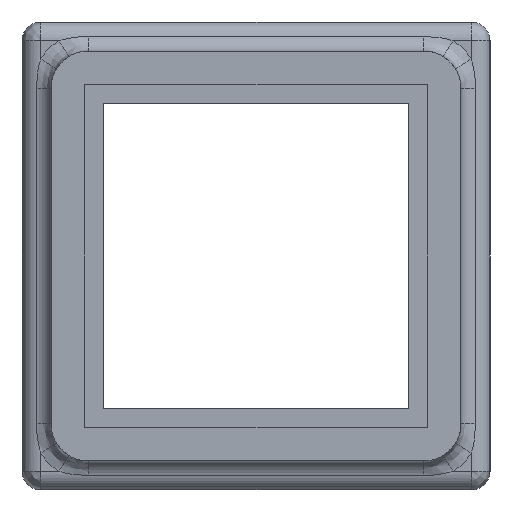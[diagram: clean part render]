
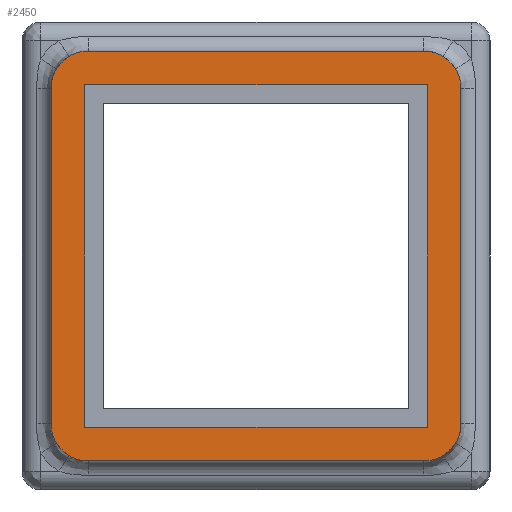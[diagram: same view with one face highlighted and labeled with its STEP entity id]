
A CAD part, left-side view. The second image highlights one B-rep face of the part: STEP entity #2450.
In plain terms, the highlighted planar face has unit normal (-1, 0, 0).
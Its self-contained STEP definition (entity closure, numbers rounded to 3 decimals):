
#108 = EDGE_CURVE ( 'NONE', #484, #5774, #6793, .T. ) ;
#126 = LINE ( 'NONE', #2271, #3669 ) ;
#219 = LINE ( 'NONE', #4546, #5452 ) ;
#243 = VERTEX_POINT ( 'NONE', #5048 ) ;
#266 = VERTEX_POINT ( 'NONE', #2022 ) ;
#294 = CARTESIAN_POINT ( 'NONE',  ( -72.5, 21.65, -9.15 ) ) ;
#458 = ORIENTED_EDGE ( 'NONE', *, *, #108, .F. ) ;
#461 = LINE ( 'NONE', #3210, #2631 ) ;
#484 = VERTEX_POINT ( 'NONE', #808 ) ;
#532 = EDGE_CURVE ( 'NONE', #4632, #3880, #1725, .T. ) ;
#607 = LINE ( 'NONE', #6540, #2316 ) ;
#622 = EDGE_CURVE ( 'NONE', #6506, #4632, #461, .T. ) ;
#639 = DIRECTION ( 'NONE',  ( 0., 0., -1. ) ) ;
#648 = DIRECTION ( 'NONE',  ( 0., 1., 0. ) ) ;
#793 = CARTESIAN_POINT ( 'NONE',  ( -72.5, 0., 0. ) ) ;
#808 = CARTESIAN_POINT ( 'NONE',  ( -72.5, 1.55, -8.95 ) ) ;
#846 = DIRECTION ( 'NONE',  ( 0., 0., -1. ) ) ;
#876 = ORIENTED_EDGE ( 'NONE', *, *, #1619, .F. ) ;
#904 = EDGE_LOOP ( 'NONE', ( #2496, #4100, #3299, #6628, #2020, #2388, #458, #876 ) ) ;
#1074 = ORIENTED_EDGE ( 'NONE', *, *, #2940, .F. ) ;
#1082 = DIRECTION ( 'NONE',  ( 0., 0., -1. ) ) ;
#1139 = ORIENTED_EDGE ( 'NONE', *, *, #2664, .F. ) ;
#1142 = LINE ( 'NONE', #2755, #3994 ) ;
#1378 = CARTESIAN_POINT ( 'NONE',  ( -72.5, 3.55, 10.95 ) ) ;
#1614 = DIRECTION ( 'NONE',  ( 0., 0., -1. ) ) ;
#1618 = EDGE_LOOP ( 'NONE', ( #1139, #3508, #1074, #6624 ) ) ;
#1619 = EDGE_CURVE ( 'NONE', #3880, #484, #5442, .T. ) ;
#1700 = DIRECTION ( 'NONE',  ( 0., 0., -1. ) ) ;
#1725 = CIRCLE ( 'NONE', #5778, 2. ) ;
#1832 = CARTESIAN_POINT ( 'NONE',  ( -72.5, 21.45, 10.95 ) ) ;
#2020 = ORIENTED_EDGE ( 'NONE', *, *, #6677, .F. ) ;
#2022 = CARTESIAN_POINT ( 'NONE',  ( -72.5, 23.45, -8.95 ) ) ;
#2177 = LINE ( 'NONE', #2248, #3223 ) ;
#2234 = DIRECTION ( 'NONE',  ( 0., 0., 1. ) ) ;
#2248 = CARTESIAN_POINT ( 'NONE',  ( -72.5, 0., 9.15 ) ) ;
#2271 = CARTESIAN_POINT ( 'NONE',  ( -72.5, 0., -9.15 ) ) ;
#2315 = VERTEX_POINT ( 'NONE', #4084 ) ;
#2316 = VECTOR ( 'NONE', #1700, 1000. ) ;
#2388 = ORIENTED_EDGE ( 'NONE', *, *, #4535, .F. ) ;
#2448 = CIRCLE ( 'NONE', #6401, 2. ) ;
#2450 = ADVANCED_FACE ( 'NONE', ( #4424, #5026 ), #4951, .F. ) ;
#2496 = ORIENTED_EDGE ( 'NONE', *, *, #532, .F. ) ;
#2618 = EDGE_CURVE ( 'NONE', #2315, #266, #607, .T. ) ;
#2631 = VECTOR ( 'NONE', #3065, 1000. ) ;
#2664 = EDGE_CURVE ( 'NONE', #3038, #6228, #1142, .T. ) ;
#2732 = VERTEX_POINT ( 'NONE', #294 ) ;
#2755 = CARTESIAN_POINT ( 'NONE',  ( -72.5, 3.35, 0. ) ) ;
#2829 = CARTESIAN_POINT ( 'NONE',  ( -72.5, 3.35, 9.15 ) ) ;
#2940 = EDGE_CURVE ( 'NONE', #4042, #2732, #3873, .T. ) ;
#3038 = VERTEX_POINT ( 'NONE', #3282 ) ;
#3065 = DIRECTION ( 'NONE',  ( 0., -1., 0. ) ) ;
#3210 = CARTESIAN_POINT ( 'NONE',  ( -72.5, 0., 10.95 ) ) ;
#3223 = VECTOR ( 'NONE', #4255, 1000. ) ;
#3282 = CARTESIAN_POINT ( 'NONE',  ( -72.5, 3.35, -9.15 ) ) ;
#3287 = EDGE_CURVE ( 'NONE', #6228, #4042, #2177, .T. ) ;
#3299 = ORIENTED_EDGE ( 'NONE', *, *, #5624, .F. ) ;
#3326 = AXIS2_PLACEMENT_3D ( 'NONE', #793, #3398, #5482 ) ;
#3398 = DIRECTION ( 'NONE',  ( 1., 0., 0. ) ) ;
#3508 = ORIENTED_EDGE ( 'NONE', *, *, #5711, .F. ) ;
#3669 = VECTOR ( 'NONE', #4415, 1000. ) ;
#3735 = CARTESIAN_POINT ( 'NONE',  ( -72.5, 21.65, 0. ) ) ;
#3873 = LINE ( 'NONE', #3735, #6945 ) ;
#3880 = VERTEX_POINT ( 'NONE', #4301 ) ;
#3994 = VECTOR ( 'NONE', #2234, 1000. ) ;
#4042 = VERTEX_POINT ( 'NONE', #6856 ) ;
#4084 = CARTESIAN_POINT ( 'NONE',  ( -72.5, 23.45, 8.95 ) ) ;
#4100 = ORIENTED_EDGE ( 'NONE', *, *, #622, .F. ) ;
#4223 = DIRECTION ( 'NONE',  ( 0., 0., -1. ) ) ;
#4255 = DIRECTION ( 'NONE',  ( 0., 1., 0. ) ) ;
#4301 = CARTESIAN_POINT ( 'NONE',  ( -72.5, 1.55, 8.95 ) ) ;
#4415 = DIRECTION ( 'NONE',  ( 0., -1., 0. ) ) ;
#4424 = FACE_BOUND ( 'NONE', #1618, .T. ) ;
#4535 = EDGE_CURVE ( 'NONE', #5774, #243, #219, .T. ) ;
#4543 = VECTOR ( 'NONE', #1614, 1000. ) ;
#4546 = CARTESIAN_POINT ( 'NONE',  ( -72.5, 0., -10.95 ) ) ;
#4552 = DIRECTION ( 'NONE',  ( 1., 0., 0. ) ) ;
#4632 = VERTEX_POINT ( 'NONE', #1378 ) ;
#4951 = PLANE ( 'NONE',  #3326 ) ;
#5026 = FACE_OUTER_BOUND ( 'NONE', #904, .T. ) ;
#5048 = CARTESIAN_POINT ( 'NONE',  ( -72.5, 21.45, -10.95 ) ) ;
#5117 = CARTESIAN_POINT ( 'NONE',  ( -72.5, 3.55, -8.95 ) ) ;
#5240 = CIRCLE ( 'NONE', #6045, 2. ) ;
#5442 = LINE ( 'NONE', #6553, #4543 ) ;
#5452 = VECTOR ( 'NONE', #648, 1000. ) ;
#5473 = CARTESIAN_POINT ( 'NONE',  ( -72.5, 21.45, 8.95 ) ) ;
#5482 = DIRECTION ( 'NONE',  ( 0., 0., -1. ) ) ;
#5505 = CARTESIAN_POINT ( 'NONE',  ( -72.5, 3.55, -10.95 ) ) ;
#5624 = EDGE_CURVE ( 'NONE', #2315, #6506, #5240, .T. ) ;
#5667 = DIRECTION ( 'NONE',  ( 1., 0., 0. ) ) ;
#5709 = CARTESIAN_POINT ( 'NONE',  ( -72.5, 3.55, 8.95 ) ) ;
#5711 = EDGE_CURVE ( 'NONE', #2732, #3038, #126, .T. ) ;
#5774 = VERTEX_POINT ( 'NONE', #5505 ) ;
#5778 = AXIS2_PLACEMENT_3D ( 'NONE', #5709, #5667, #846 ) ;
#5889 = AXIS2_PLACEMENT_3D ( 'NONE', #5117, #4552, #6151 ) ;
#5923 = DIRECTION ( 'NONE',  ( 1., 0., 0. ) ) ;
#6045 = AXIS2_PLACEMENT_3D ( 'NONE', #5473, #6516, #1082 ) ;
#6151 = DIRECTION ( 'NONE',  ( 0., 0., -1. ) ) ;
#6228 = VERTEX_POINT ( 'NONE', #2829 ) ;
#6401 = AXIS2_PLACEMENT_3D ( 'NONE', #6956, #5923, #4223 ) ;
#6506 = VERTEX_POINT ( 'NONE', #1832 ) ;
#6516 = DIRECTION ( 'NONE',  ( 1., 0., 0. ) ) ;
#6540 = CARTESIAN_POINT ( 'NONE',  ( -72.5, 23.45, -10.95 ) ) ;
#6553 = CARTESIAN_POINT ( 'NONE',  ( -72.5, 1.55, 0. ) ) ;
#6624 = ORIENTED_EDGE ( 'NONE', *, *, #3287, .F. ) ;
#6628 = ORIENTED_EDGE ( 'NONE', *, *, #2618, .T. ) ;
#6677 = EDGE_CURVE ( 'NONE', #243, #266, #2448, .T. ) ;
#6793 = CIRCLE ( 'NONE', #5889, 2. ) ;
#6856 = CARTESIAN_POINT ( 'NONE',  ( -72.5, 21.65, 9.15 ) ) ;
#6945 = VECTOR ( 'NONE', #639, 1000. ) ;
#6956 = CARTESIAN_POINT ( 'NONE',  ( -72.5, 21.45, -8.95 ) ) ;
